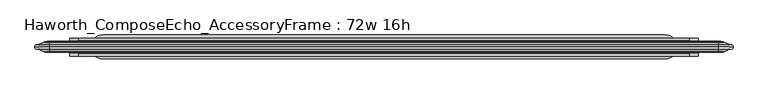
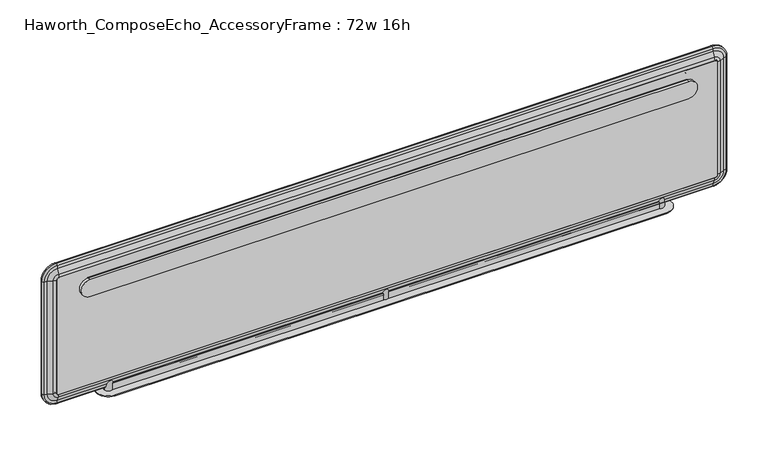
"""IFC4 building model written with IfcOpenShell, lengths in millimetres: furniture geometry, Haworth_ComposeEcho_AccessoryFrame : 72w 16h."""

from ifc_helpers import new_model, si_unit, point, frame, frame_2d, origin, place, context, project, spatial, polyline, circle_curve, ellipse_curve, trimmed, segment, composite_curve, outline, extrude, source, transform, mapped, element, save
from ifc_brep_helpers import plane_surface, cylinder_surface, revolved_surface, advanced_brep


def haworth_composeecho_accessoryframe_72w_16h_d8a9d56e(model_context):
    return source(origin(), model_context, "Body", "SolidModel", [
        extrude(outline(composite_curve([segment(trimmed(circle_curve(frame_2d((1432.9130983, -873.8759879)), 6.3337219), [point((1439.2468202, -873.8759879))], [point((1432.9130983, -880.2097098))], False, "CARTESIAN"), True, "CONTINUOUS"), segment(polyline([(1432.9130983, -880.2097098), (1115.0680007, -880.2097098)]), True, "CONTINUOUS"), segment(trimmed(circle_curve(frame_2d((1115.0680007, -873.8597098)), 6.35), [point((1115.0680007, -880.2097098))], [point((1108.7180007, -873.8597098))], False, "CARTESIAN"), True, "CONTINUOUS"), segment(polyline([(1108.7180007, -873.8597098), (1108.7180007, 878.7402902)]), True, "CONTINUOUS"), segment(trimmed(circle_curve(frame_2d((1115.0680007, 878.7402902)), 6.35), [point((1108.7180007, 878.7402902))], [point((1115.0680007, 885.0902902))], False, "CARTESIAN"), True, "CONTINUOUS"), segment(polyline([(1115.0680007, 885.0902902), (1432.9130983, 885.0902902)]), True, "CONTINUOUS"), segment(trimmed(circle_curve(frame_2d((1432.9130983, 878.7565682)), 6.3337219), [point((1432.9130983, 885.0902902))], [point((1439.2468202, 878.7565682))], False, "CARTESIAN"), True, "CONTINUOUS"), segment(polyline([(1439.2468202, 878.7565682), (1439.2468202, -873.8759879)]), True, "CONTINUOUS")], self_intersect=False)), frame((0.0, -14.1233272, 0.0), z_axis=(0.0, 1.0, 0.0), x_axis=(0.0, 0.0, 1.0)), (0.0, 0.0, 1.0), 28.3652874),
        advanced_brep(
        [(913.9741083, -5.6620988, 1432.9130983), (916.495037, 0.0, 1432.9130983), (878.7563745, 0.0, 1470.6517609), (878.7563745, -5.6620988, 1468.1308321), (906.5453032, -6.4813873, 1432.9130983), (878.7563745, -6.4813873, 1460.7020271), (913.9741083, -5.6620988, 1115.0680007), (916.495037, 0.0, 1115.0680007), (906.5453032, -6.4813873, 1115.0680007), (878.7400964, -5.6620988, 1079.8339888), (878.7400964, 0.0, 1077.31306), (878.7400964, -6.4813873, 1087.2627938), (-873.8597098, -5.6620988, 1079.8339888), (-873.8597098, 0.0, 1077.31306), (-873.8597098, -6.4813873, 1087.2627938), (-909.0937217, -5.6620988, 1115.0680007), (-911.6146505, 0.0, 1115.0680007), (-901.6649167, -6.4813873, 1115.0680007), (-909.0937217, -5.6620988, 1432.9130983), (-911.6146505, 0.0, 1432.9130983), (-901.6649167, -6.4813873, 1432.9130983), (-873.8759879, -5.6620988, 1468.1308321), (-873.8759879, 0.0, 1470.6517609), (-873.8759879, -6.4813873, 1460.7020271), (-880.2097098, 0.0, 1115.0680007), (-873.8597098, 0.0, 1108.7180007), (878.7400964, 0.0, 1108.7180007), (885.0900964, 0.0, 1115.0680007), (885.0900964, 0.0, 1432.9130983), (878.7563745, 0.0, 1439.2468202), (-873.8759879, 0.0, 1439.2468202), (-880.2097098, 0.0, 1432.9130983), (885.0900964, -14.1233272, 1432.9130983), (878.7563745, -14.1233272, 1439.2468202), (893.1685761, -12.0676743, 1432.9130983), (878.7563745, -12.0676743, 1447.3253), (885.0900964, -14.1233272, 1115.0680007), (893.1685761, -12.0676743, 1115.0680007), (878.7400964, -14.1233272, 1108.7180007), (878.7400964, -12.0676743, 1100.6395209), (-873.8597098, -14.1233272, 1108.7180007), (-873.8597098, -12.0676743, 1100.6395209), (-880.2097098, -14.1233272, 1115.0680007), (-888.2881896, -12.0676743, 1115.0680007), (-880.2097098, -14.1233272, 1432.9130983), (-888.2881896, -12.0676743, 1432.9130983), (-873.8759879, -14.1233272, 1439.2468202), (-873.8759879, -12.0676743, 1447.3253)],
        [
            (0, 1, circle_curve(frame((912.5467041, -1.6343332, 1432.9130983), z_axis=(0.0, 0.0, 1.0), x_axis=(-1.0, 0.0, 0.0)), 4.2732164)),
            (1, 2, circle_curve(frame((878.7563745, 0.0, 1432.9130983), z_axis=(0.0, -1.0, 0.0), x_axis=(0.0, 0.0, 1.0)), 37.7386626)),
            (2, 3, circle_curve(frame((878.7563745, -1.6343332, 1466.7034279), z_axis=(1.0, 0.0, 0.0), x_axis=(0.0, 0.0, -1.0)), 4.2732164)),
            (3, 0, circle_curve(frame((878.7563745, -5.6620988, 1432.9130983), z_axis=(0.0, 1.0, 0.0), x_axis=(0.0, 0.0, 1.0)), 35.2177338)),
            (4, 0),
            (3, 5),
            (5, 4, circle_curve(frame((878.7563745, -6.4813873, 1432.9130983), z_axis=(0.0, 1.0, 0.0), x_axis=(0.0, 0.0, 1.0)), 27.7889288)),
            (0, 6),
            (6, 7, circle_curve(frame((912.5467041, -1.6343332, 1115.0680007), z_axis=(0.0, 0.0, 1.0), x_axis=(-1.0, 0.0, 0.0)), 4.2732164)),
            (7, 1),
            (4, 8),
            (8, 6),
            (9, 10, circle_curve(frame((878.7400964, -1.6343332, 1081.261393), z_axis=(1.0, 0.0, 0.0), x_axis=(0.0, 0.0, 1.0)), 4.2732164)),
            (10, 7, circle_curve(frame((878.7400964, 0.0, 1115.0680007), z_axis=(0.0, -1.0, 0.0), x_axis=(1.0, 0.0, 0.0)), 37.7549407)),
            (6, 9, circle_curve(frame((878.7400964, -5.6620988, 1115.0680007), z_axis=(0.0, 1.0, 0.0), x_axis=(1.0, 0.0, 0.0)), 35.2340119)),
            (11, 9),
            (8, 11, circle_curve(frame((878.7400964, -6.4813873, 1115.0680007), z_axis=(0.0, 1.0, 0.0), x_axis=(1.0, 0.0, 0.0)), 27.8052069)),
            (9, 12),
            (12, 13, circle_curve(frame((-873.8597098, -1.6343332, 1081.261393), z_axis=(1.0, 0.0, 0.0), x_axis=(0.0, 0.0, 1.0)), 4.2732164)),
            (13, 10),
            (11, 14),
            (14, 12),
            (15, 16, circle_curve(frame((-907.6663175, -1.6343332, 1115.0680007), z_axis=(0.0, 0.0, -1.0), x_axis=(1.0, 0.0, 0.0)), 4.2732164)),
            (16, 13, circle_curve(frame((-873.8597098, 0.0, 1115.0680007), z_axis=(0.0, -1.0, 0.0), x_axis=(0.0, 0.0, -1.0)), 37.7549407)),
            (12, 15, circle_curve(frame((-873.8597098, -5.6620988, 1115.0680007), z_axis=(0.0, 1.0, 0.0), x_axis=(0.0, 0.0, -1.0)), 35.2340119)),
            (17, 15),
            (14, 17, circle_curve(frame((-873.8597098, -6.4813873, 1115.0680007), z_axis=(0.0, 1.0, 0.0), x_axis=(0.0, 0.0, -1.0)), 27.8052069)),
            (15, 18),
            (18, 19, circle_curve(frame((-907.6663175, -1.6343332, 1432.9130983), z_axis=(0.0, 0.0, -1.0), x_axis=(1.0, 0.0, 0.0)), 4.2732164)),
            (19, 16),
            (17, 20),
            (20, 18),
            (21, 22, circle_curve(frame((-873.8759879, -1.6343332, 1466.7034279), z_axis=(-1.0, 0.0, 0.0), x_axis=(0.0, 0.0, -1.0)), 4.2732164)),
            (22, 19, circle_curve(frame((-873.8759879, 0.0, 1432.9130983), z_axis=(0.0, -1.0, 0.0), x_axis=(-1.0, 0.0, 0.0)), 37.7386626)),
            (18, 21, circle_curve(frame((-873.8759879, -5.6620988, 1432.9130983), z_axis=(0.0, 1.0, 0.0), x_axis=(-1.0, 0.0, 0.0)), 35.2177338)),
            (23, 21),
            (20, 23, circle_curve(frame((-873.8759879, -6.4813873, 1432.9130983), z_axis=(0.0, 1.0, 0.0), x_axis=(-1.0, 0.0, 0.0)), 27.7889288)),
            (21, 3),
            (2, 22),
            (24, 25, circle_curve(frame((-873.8597098, 0.0, 1115.0680007), z_axis=(0.0, -1.0, 0.0), x_axis=(0.0, 0.0, -1.0)), 6.35)),
            (25, 26),
            (26, 27, circle_curve(frame((878.7400964, 0.0, 1115.0680007), z_axis=(0.0, -1.0, 0.0), x_axis=(1.0, 0.0, 0.0)), 6.35)),
            (27, 28),
            (28, 29, circle_curve(frame((878.7563745, 0.0, 1432.9130983), z_axis=(0.0, -1.0, 0.0), x_axis=(0.0, 0.0, 1.0)), 6.3337219)),
            (29, 30),
            (30, 31, circle_curve(frame((-873.8759879, 0.0, 1432.9130983), z_axis=(0.0, -1.0, 0.0), x_axis=(-1.0, 0.0, 0.0)), 6.3337219)),
            (31, 24),
            (23, 5),
            (28, 32),
            (32, 33, circle_curve(frame((878.7563745, -14.1233272, 1432.9130983), z_axis=(0.0, -1.0, 0.0), x_axis=(0.0, 0.0, 1.0)), 6.3337219)),
            (33, 29),
            (32, 34, circle_curve(frame((883.8042192, 7.831597, 1432.9130983), z_axis=(0.0, 0.0, 1.0), x_axis=(-1.0, 0.0, 0.0)), 21.9925482)),
            (34, 35, circle_curve(frame((878.7563745, -12.0676743, 1432.9130983), z_axis=(0.0, -1.0, 0.0), x_axis=(0.0, 0.0, 1.0)), 14.4122017)),
            (35, 33, circle_curve(frame((878.7563745, 7.831597, 1437.960943), z_axis=(1.0, 0.0, 0.0), x_axis=(0.0, 0.0, -1.0)), 21.9925482)),
            (34, 4, circle_curve(frame((962.9438047, -160.3401291, 1432.9130983), z_axis=(0.0, 0.0, -1.0), x_axis=(-1.0, 0.0, 0.0)), 163.8697757)),
            (5, 35, circle_curve(frame((878.7563745, -160.3401291, 1517.1005285), z_axis=(-1.0, 0.0, 0.0), x_axis=(0.0, 0.0, -1.0)), 163.8697757)),
            (27, 36),
            (36, 32),
            (36, 37, circle_curve(frame((883.8042192, 7.831597, 1115.0680007), z_axis=(0.0, 0.0, 1.0), x_axis=(-1.0, 0.0, 0.0)), 21.9925482)),
            (37, 34),
            (37, 8, circle_curve(frame((962.9438047, -160.3401291, 1115.0680007), z_axis=(0.0, 0.0, -1.0), x_axis=(-1.0, 0.0, 0.0)), 163.8697757)),
            (26, 38),
            (38, 36, circle_curve(frame((878.7400964, -14.1233272, 1115.0680007), z_axis=(0.0, -1.0, 0.0), x_axis=(1.0, 0.0, 0.0)), 6.35)),
            (38, 39, circle_curve(frame((878.7400964, 7.831597, 1110.0038779), z_axis=(1.0, 0.0, 0.0), x_axis=(0.0, 0.0, 1.0)), 21.9925482)),
            (39, 37, circle_curve(frame((878.7400964, -12.0676743, 1115.0680007), z_axis=(0.0, -1.0, 0.0), x_axis=(1.0, 0.0, 0.0)), 14.4284798)),
            (39, 11, circle_curve(frame((878.7400964, -160.3401291, 1030.8642924), z_axis=(-1.0, 0.0, 0.0), x_axis=(0.0, 0.0, 1.0)), 163.8697757)),
            (25, 40),
            (40, 38),
            (40, 41, circle_curve(frame((-873.8597098, 7.831597, 1110.0038779), z_axis=(1.0, 0.0, 0.0), x_axis=(0.0, 0.0, 1.0)), 21.9925482)),
            (41, 39),
            (41, 14, circle_curve(frame((-873.8597098, -160.3401291, 1030.8642924), z_axis=(-1.0, 0.0, 0.0), x_axis=(0.0, 0.0, 1.0)), 163.8697757)),
            (24, 42),
            (42, 40, circle_curve(frame((-873.8597098, -14.1233272, 1115.0680007), z_axis=(0.0, -1.0, 0.0), x_axis=(0.0, 0.0, -1.0)), 6.35)),
            (42, 43, circle_curve(frame((-878.9238326, 7.831597, 1115.0680007), z_axis=(0.0, 0.0, -1.0), x_axis=(1.0, 0.0, 0.0)), 21.9925482)),
            (43, 41, circle_curve(frame((-873.8597098, -12.0676743, 1115.0680007), z_axis=(0.0, -1.0, 0.0), x_axis=(0.0, 0.0, -1.0)), 14.4284798)),
            (43, 17, circle_curve(frame((-958.0634181, -160.3401291, 1115.0680007), z_axis=(0.0, 0.0, 1.0), x_axis=(1.0, 0.0, 0.0)), 163.8697757)),
            (31, 44),
            (44, 42),
            (44, 45, circle_curve(frame((-878.9238326, 7.831597, 1432.9130983), z_axis=(0.0, 0.0, -1.0), x_axis=(1.0, 0.0, 0.0)), 21.9925482)),
            (45, 43),
            (45, 20, circle_curve(frame((-958.0634181, -160.3401291, 1432.9130983), z_axis=(0.0, 0.0, 1.0), x_axis=(1.0, 0.0, 0.0)), 163.8697757)),
            (30, 46),
            (46, 44, circle_curve(frame((-873.8759879, -14.1233272, 1432.9130983), z_axis=(0.0, -1.0, 0.0), x_axis=(-1.0, 0.0, 0.0)), 6.3337219)),
            (46, 47, circle_curve(frame((-873.8759879, 7.831597, 1437.960943), z_axis=(-1.0, 0.0, 0.0), x_axis=(0.0, 0.0, -1.0)), 21.9925482)),
            (47, 45, circle_curve(frame((-873.8759879, -12.0676743, 1432.9130983), z_axis=(0.0, -1.0, 0.0), x_axis=(-1.0, 0.0, 0.0)), 14.4122017)),
            (47, 23, circle_curve(frame((-873.8759879, -160.3401291, 1517.1005285), z_axis=(1.0, 0.0, 0.0), x_axis=(0.0, 0.0, -1.0)), 163.8697757)),
            (33, 46),
            (35, 47),
        ],
        [
            revolved_surface(trimmed(ellipse_curve(frame((878.7563745, -1.6343332, 1466.7034279), z_axis=(1.0, 0.0, 0.0), x_axis=(0.0, 0.0, -1.0)), 4.2732164, 4.2732164), [point((878.7563745, 0.0, 1470.6517609))], [point((878.7563745, -5.6620988, 1468.1308321))], True, "CARTESIAN"), (878.7563745, 0.0, 1432.9130983), (0.0, -1.0, 0.0)),
            revolved_surface(polyline([(878.7563745, -5.6620988, 1468.1308321), (878.7563745, -6.4813873, 1460.7020271)]), (878.7563745, 0.0, 1432.9130983), (0.0, -1.0, 0.0)),
            cylinder_surface(frame((912.5467041, -1.6343332, 1432.9130983), z_axis=(0.0, 0.0, 1.0), x_axis=(-1.0, 0.0, 0.0)), 4.2732164),
            plane_surface(frame((913.9741083, -5.6620988, 1432.9130983), z_axis=(0.10962074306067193, -0.9939734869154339, 0.0), x_axis=(0.0, 0.0, -1.0))),
            revolved_surface(trimmed(ellipse_curve(frame((912.5467041, -1.6343332, 1115.0680007), z_axis=(0.0, 0.0, -1.0), x_axis=(-1.0, 0.0, 0.0)), 4.2732164, 4.2732164), [point((916.495037, 0.0, 1115.0680007))], [point((913.9741083, -5.6620988, 1115.0680007))], True, "CARTESIAN"), (878.7400964, 0.0, 1115.0680007), (0.0, -1.0, 0.0)),
            revolved_surface(polyline([(913.9741083, -5.6620988, 1115.0680007), (906.5453032, -6.4813873, 1115.0680007)]), (878.7400964, 0.0, 1115.0680007), (0.0, -1.0, 0.0)),
            cylinder_surface(frame((878.7400964, -1.6343332, 1081.261393), z_axis=(1.0, 0.0, 0.0), x_axis=(0.0, 0.0, 1.0)), 4.2732164),
            plane_surface(frame((878.7400964, -5.6620988, 1079.8339888), z_axis=(0.0, -0.9939734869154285, -0.109620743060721), x_axis=(-1.0, 0.0, 0.0))),
            revolved_surface(trimmed(ellipse_curve(frame((-873.8597098, -1.6343332, 1081.261393), z_axis=(-1.0, 0.0, 0.0), x_axis=(0.0, 0.0, 1.0)), 4.2732164, 4.2732164), [point((-873.8597098, 0.0, 1077.31306))], [point((-873.8597098, -5.6620988, 1079.8339888))], True, "CARTESIAN"), (-873.8597098, 0.0, 1115.0680007), (0.0, -1.0, 0.0)),
            revolved_surface(polyline([(-873.8597098, -5.6620988, 1079.8339888), (-873.8597098, -6.4813873, 1087.2627938)]), (-873.8597098, 0.0, 1115.0680007), (0.0, -1.0, 0.0)),
            cylinder_surface(frame((-907.6663175, -1.6343332, 1115.0680007), z_axis=(0.0, 0.0, -1.0), x_axis=(1.0, 0.0, 0.0)), 4.2732164),
            plane_surface(frame((-909.0937217, -5.6620988, 1115.0680007), z_axis=(-0.10962074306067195, -0.993973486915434, 0.0), x_axis=(0.0, 0.0, 1.0))),
            revolved_surface(trimmed(ellipse_curve(frame((-907.6663175, -1.6343332, 1432.9130983), z_axis=(0.0, 0.0, 1.0), x_axis=(1.0, 0.0, 0.0)), 4.2732164, 4.2732164), [point((-911.6146505, 0.0, 1432.9130983))], [point((-909.0937217, -5.6620988, 1432.9130983))], True, "CARTESIAN"), (-873.8759879, 0.0, 1432.9130983), (0.0, -1.0, 0.0)),
            revolved_surface(polyline([(-909.0937217, -5.6620988, 1432.9130983), (-901.6649167, -6.4813873, 1432.9130983)]), (-873.8759879, 0.0, 1432.9130983), (0.0, -1.0, 0.0)),
            cylinder_surface(frame((-873.8759879, -1.6343332, 1466.7034279), z_axis=(-1.0, 0.0, 0.0), x_axis=(0.0, 0.0, -1.0)), 4.2732164),
            plane_surface(frame((-873.8759879, 0.0, 1439.2468202), z_axis=(0.0, 1.0, 0.0), x_axis=(1.0, 0.0, 0.0))),
            plane_surface(frame((-873.8759879, -5.6620988, 1468.1308321), z_axis=(0.0, -0.9939734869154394, 0.10962074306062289), x_axis=(1.0, 0.0, 0.0))),
            revolved_surface(polyline([(878.7563745, -14.1233272, 1439.2468202), (878.7563745, 0.0, 1439.2468202)]), (878.7563745, 0.0, 1432.9130983), (0.0, -1.0, 0.0)),
            revolved_surface(trimmed(ellipse_curve(frame((878.7563745, 7.831597, 1437.960943), z_axis=(1.0, 0.0, 0.0), x_axis=(0.0, 0.0, -1.0)), 21.9925482, 21.9925482), [point((878.7563745, -12.0676743, 1447.3253))], [point((878.7563745, -14.1233272, 1439.2468202))], True, "CARTESIAN"), (878.7563745, 0.0, 1432.9130983), (0.0, -1.0, 0.0)),
            revolved_surface(trimmed(ellipse_curve(frame((878.7563745, -160.3401291, 1517.1005285), z_axis=(-1.0, 0.0, 0.0), x_axis=(0.0, 0.0, -1.0)), 163.8697757, 163.8697757), [point((878.7563745, -6.4813873, 1460.7020271))], [point((878.7563745, -12.0676743, 1447.3253))], True, "CARTESIAN"), (878.7563745, 0.0, 1432.9130983), (0.0, -1.0, 0.0)),
            plane_surface(frame((885.0900964, -14.1233272, 1432.9130983), z_axis=(-1.0, 0.0, 0.0), x_axis=(0.0, 0.0, -1.0))),
            cylinder_surface(frame((883.8042192, 7.831597, 1432.9130983), z_axis=(0.0, 0.0, 1.0), x_axis=(-1.0, 0.0, 0.0)), 21.9925482),
            revolved_surface(polyline([(799.074029, -160.3401291, 1115.0680007), (799.074029, -160.3401291, 1432.9130983)]), (962.9438047, -160.3401291, 1432.9130983), (0.0, 0.0, -1.0)),
            revolved_surface(polyline([(885.0900964, -14.1233272, 1115.0680007), (885.0900964, 0.0, 1115.0680007)]), (878.7400964, 0.0, 1115.0680007), (0.0, -1.0, 0.0)),
            revolved_surface(trimmed(ellipse_curve(frame((883.8042192, 7.831597, 1115.0680007), z_axis=(0.0, 0.0, -1.0), x_axis=(-1.0, 0.0, 0.0)), 21.9925482, 21.9925482), [point((893.1685761, -12.0676743, 1115.0680007))], [point((885.0900964, -14.1233272, 1115.0680007))], True, "CARTESIAN"), (878.7400964, 0.0, 1115.0680007), (0.0, -1.0, 0.0)),
            revolved_surface(trimmed(ellipse_curve(frame((962.9438047, -160.3401291, 1115.0680007), z_axis=(0.0, 0.0, 1.0), x_axis=(-1.0, 0.0, 0.0)), 163.8697757, 163.8697757), [point((906.5453032, -6.4813873, 1115.0680007))], [point((893.1685761, -12.0676743, 1115.0680007))], True, "CARTESIAN"), (878.7400964, 0.0, 1115.0680007), (0.0, -1.0, 0.0)),
            plane_surface(frame((878.7400964, -14.1233272, 1108.7180007), z_axis=(0.0, 0.0, 1.0), x_axis=(-1.0, 0.0, 0.0))),
            cylinder_surface(frame((878.7400964, 7.831597, 1110.0038779), z_axis=(1.0, 0.0, 0.0), x_axis=(0.0, 0.0, 1.0)), 21.9925482),
            revolved_surface(polyline([(-873.8597097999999, -160.3401291, 1194.7340681), (878.7400964, -160.3401291, 1194.7340681)]), (878.7400964, -160.3401291, 1030.8642924), (-1.0, 0.0, 0.0)),
            revolved_surface(polyline([(-873.8597098, -14.1233272, 1108.7180007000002), (-873.8597098, 0.0, 1108.7180007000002)]), (-873.8597098, 0.0, 1115.0680007), (0.0, -1.0, 0.0)),
            revolved_surface(trimmed(ellipse_curve(frame((-873.8597098, 7.831597, 1110.0038779), z_axis=(-1.0, 0.0, 0.0), x_axis=(0.0, 0.0, 1.0)), 21.9925482, 21.9925482), [point((-873.8597098, -12.0676743, 1100.6395209))], [point((-873.8597098, -14.1233272, 1108.7180007))], True, "CARTESIAN"), (-873.8597098, 0.0, 1115.0680007), (0.0, -1.0, 0.0)),
            revolved_surface(trimmed(ellipse_curve(frame((-873.8597098, -160.3401291, 1030.8642924), z_axis=(1.0, 0.0, 0.0), x_axis=(0.0, 0.0, 1.0)), 163.8697757, 163.8697757), [point((-873.8597098, -6.4813873, 1087.2627938))], [point((-873.8597098, -12.0676743, 1100.6395209))], True, "CARTESIAN"), (-873.8597098, 0.0, 1115.0680007), (0.0, -1.0, 0.0)),
            plane_surface(frame((-880.2097098, -14.1233272, 1115.0680007), z_axis=(1.0, 0.0, 0.0), x_axis=(0.0, 0.0, 1.0))),
            cylinder_surface(frame((-878.9238326, 7.831597, 1115.0680007), z_axis=(0.0, 0.0, -1.0), x_axis=(1.0, 0.0, 0.0)), 21.9925482),
            revolved_surface(polyline([(-794.1936424, -160.3401291, 1432.9130983), (-794.1936424, -160.3401291, 1115.0680007)]), (-958.0634181, -160.3401291, 1115.0680007), (0.0, 0.0, 1.0)),
            revolved_surface(polyline([(-880.2097098, -14.1233272, 1432.9130983), (-880.2097098, 0.0, 1432.9130983)]), (-873.8759879, 0.0, 1432.9130983), (0.0, -1.0, 0.0)),
            revolved_surface(trimmed(ellipse_curve(frame((-878.9238326, 7.831597, 1432.9130983), z_axis=(0.0, 0.0, 1.0), x_axis=(1.0, 0.0, 0.0)), 21.9925482, 21.9925482), [point((-888.2881896, -12.0676743, 1432.9130983))], [point((-880.2097098, -14.1233272, 1432.9130983))], True, "CARTESIAN"), (-873.8759879, 0.0, 1432.9130983), (0.0, -1.0, 0.0)),
            revolved_surface(trimmed(ellipse_curve(frame((-958.0634181, -160.3401291, 1432.9130983), z_axis=(0.0, 0.0, -1.0), x_axis=(1.0, 0.0, 0.0)), 163.8697757, 163.8697757), [point((-901.6649167, -6.4813873, 1432.9130983))], [point((-888.2881896, -12.0676743, 1432.9130983))], True, "CARTESIAN"), (-873.8759879, 0.0, 1432.9130983), (0.0, -1.0, 0.0)),
            plane_surface(frame((-873.8759879, -14.1233272, 1439.2468202), z_axis=(0.0, 0.0, -1.0), x_axis=(1.0, 0.0, 0.0))),
            cylinder_surface(frame((-873.8759879, 7.831597, 1437.960943), z_axis=(-1.0, 0.0, 0.0), x_axis=(0.0, 0.0, -1.0)), 21.9925482),
            revolved_surface(polyline([(878.7563745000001, -160.3401291, 1353.2307528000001), (-873.8759879, -160.3401291, 1353.2307528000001)]), (-873.8759879, -160.3401291, 1517.1005285), (1.0, 0.0, 0.0)),
        ],
        [
            (0, [[1, 2, 3, 4]]),
            (1, [[5, -4, 6, 7]]),
            (2, [[8, 9, 10, -1]]),
            (3, [[11, 12, -8, -5]]),
            (4, [[13, 14, -9, 15]]),
            (5, [[16, -15, -12, 17]]),
            (6, [[18, 19, 20, -13]]),
            (7, [[21, 22, -18, -16]]),
            (8, [[23, 24, -19, 25]]),
            (9, [[26, -25, -22, 27]]),
            (10, [[28, 29, 30, -23]]),
            (11, [[31, 32, -28, -26]]),
            (12, [[33, 34, -29, 35]]),
            (13, [[36, -35, -32, 37]]),
            (14, [[38, -3, 39, -33]]),
            (15, [[-2, -10, -14, -20, -24, -30, -34, -39], [40, 41, 42, 43, 44, 45, 46, 47]]),
            (16, [[48, -6, -38, -36]]),
            (17, [[49, 50, 51, -44]]),
            (18, [[52, 53, 54, -50]]),
            (19, [[55, -7, 56, -53]]),
            (20, [[-43, 57, 58, -49]]),
            (21, [[-58, 59, 60, -52]]),
            (22, [[-60, 61, -11, -55]]),
            (23, [[62, 63, -57, -42]]),
            (24, [[64, 65, -59, -63]]),
            (25, [[66, -17, -61, -65]]),
            (26, [[-41, 67, 68, -62]]),
            (27, [[-68, 69, 70, -64]]),
            (28, [[-70, 71, -21, -66]]),
            (29, [[72, 73, -67, -40]]),
            (30, [[74, 75, -69, -73]]),
            (31, [[76, -27, -71, -75]]),
            (32, [[-47, 77, 78, -72]]),
            (33, [[-78, 79, 80, -74]]),
            (34, [[-80, 81, -31, -76]]),
            (35, [[82, 83, -77, -46]]),
            (36, [[84, 85, -79, -83]]),
            (37, [[86, -37, -81, -85]]),
            (38, [[-45, -51, 87, -82]]),
            (39, [[-87, -54, 88, -84]]),
            (40, [[-88, -56, -48, -86]]),
        ],
    ),
        advanced_brep(
        [(916.495037, 0.0, 1432.9130983), (913.9741083, 5.6620988, 1432.9130983), (878.7563745, 5.6620988, 1468.1308321), (878.7563745, 0.0, 1470.6517609), (906.5453032, 6.4813873, 1432.9130983), (878.7563745, 6.4813873, 1460.7020271), (916.495037, 0.0, 1115.0680007), (913.9741083, 5.6620988, 1115.0680007), (906.5453032, 6.4813873, 1115.0680007), (878.7400964, 0.0, 1077.31306), (878.7400964, 5.6620988, 1079.8339888), (878.7400964, 6.4813873, 1087.2627938), (-873.8597098, 0.0, 1077.31306), (-873.8597098, 5.6620988, 1079.8339888), (-873.8597098, 6.4813873, 1087.2627938), (-911.6146505, 0.0, 1115.0680007), (-909.0937217, 5.6620988, 1115.0680007), (-901.6649167, 6.4813873, 1115.0680007), (-911.6146505, 0.0, 1432.9130983), (-909.0937217, 5.6620988, 1432.9130983), (-901.6649167, 6.4813873, 1432.9130983), (-873.8759879, 0.0, 1470.6517609), (-873.8759879, 5.6620988, 1468.1308321), (-873.8759879, 6.4813873, 1460.7020271), (878.7563745, 0.0, 1439.2468202), (885.0900964, 0.0, 1432.9130983), (885.0900964, 0.0, 1115.0680007), (878.7400964, 0.0, 1108.7180007), (-873.8597098, 0.0, 1108.7180007), (-880.2097098, 0.0, 1115.0680007), (-880.2097098, 0.0, 1432.9130983), (-873.8759879, 0.0, 1439.2468202), (885.0900964, 14.1233272, 1432.9130983), (878.7563745, 14.1233272, 1439.2468202), (893.1685761, 12.0676743, 1432.9130983), (878.7563745, 12.0676743, 1447.3253), (885.0900964, 14.1233272, 1115.0680007), (893.1685761, 12.0676743, 1115.0680007), (878.7400964, 14.1233272, 1108.7180007), (878.7400964, 12.0676743, 1100.6395209), (-873.8597098, 14.1233272, 1108.7180007), (-873.8597098, 12.0676743, 1100.6395209), (-880.2097098, 14.1233272, 1115.0680007), (-888.2881896, 12.0676743, 1115.0680007), (-880.2097098, 14.1233272, 1432.9130983), (-888.2881896, 12.0676743, 1432.9130983), (-873.8759879, 14.1233272, 1439.2468202), (-873.8759879, 12.0676743, 1447.3253)],
        [
            (0, 1, circle_curve(frame((912.5467041, 1.6343332, 1432.9130983), z_axis=(0.0, 0.0, 1.0), x_axis=(1.0, 0.0, 0.0)), 4.2732164)),
            (1, 2, circle_curve(frame((878.7563745, 5.6620988, 1432.9130983), z_axis=(0.0, -1.0, 0.0), x_axis=(0.0, 0.0, 1.0)), 35.2177338)),
            (2, 3, circle_curve(frame((878.7563745, 1.6343332, 1466.7034279), z_axis=(1.0, 0.0, 0.0), x_axis=(0.0, 0.0, 1.0)), 4.2732164)),
            (3, 0, circle_curve(frame((878.7563745, 0.0, 1432.9130983), z_axis=(0.0, 1.0, 0.0), x_axis=(0.0, 0.0, 1.0)), 37.7386626)),
            (1, 4),
            (4, 5, circle_curve(frame((878.7563745, 6.4813873, 1432.9130983), z_axis=(0.0, -1.0, 0.0), x_axis=(0.0, 0.0, 1.0)), 27.7889288)),
            (5, 2),
            (0, 6),
            (6, 7, circle_curve(frame((912.5467041, 1.6343332, 1115.0680007), z_axis=(0.0, 0.0, 1.0), x_axis=(1.0, 0.0, 0.0)), 4.2732164)),
            (7, 1),
            (7, 8),
            (8, 4),
            (9, 10, circle_curve(frame((878.7400964, 1.6343332, 1081.261393), z_axis=(1.0, 0.0, 0.0), x_axis=(0.0, 0.0, -1.0)), 4.2732164)),
            (10, 7, circle_curve(frame((878.7400964, 5.6620988, 1115.0680007), z_axis=(0.0, -1.0, 0.0), x_axis=(1.0, 0.0, 0.0)), 35.2340119)),
            (6, 9, circle_curve(frame((878.7400964, 0.0, 1115.0680007), z_axis=(0.0, 1.0, 0.0), x_axis=(1.0, 0.0, 0.0)), 37.7549407)),
            (10, 11),
            (11, 8, circle_curve(frame((878.7400964, 6.4813873, 1115.0680007), z_axis=(0.0, -1.0, 0.0), x_axis=(1.0, 0.0, 0.0)), 27.8052069)),
            (9, 12),
            (12, 13, circle_curve(frame((-873.8597098, 1.6343332, 1081.261393), z_axis=(1.0, 0.0, 0.0), x_axis=(0.0, 0.0, -1.0)), 4.2732164)),
            (13, 10),
            (13, 14),
            (14, 11),
            (15, 16, circle_curve(frame((-907.6663175, 1.6343332, 1115.0680007), z_axis=(0.0, 0.0, -1.0), x_axis=(-1.0, 0.0, 0.0)), 4.2732164)),
            (16, 13, circle_curve(frame((-873.8597098, 5.6620988, 1115.0680007), z_axis=(0.0, -1.0, 0.0), x_axis=(0.0, 0.0, -1.0)), 35.2340119)),
            (12, 15, circle_curve(frame((-873.8597098, 0.0, 1115.0680007), z_axis=(0.0, 1.0, 0.0), x_axis=(0.0, 0.0, -1.0)), 37.7549407)),
            (16, 17),
            (17, 14, circle_curve(frame((-873.8597098, 6.4813873, 1115.0680007), z_axis=(0.0, -1.0, 0.0), x_axis=(0.0, 0.0, -1.0)), 27.8052069)),
            (15, 18),
            (18, 19, circle_curve(frame((-907.6663175, 1.6343332, 1432.9130983), z_axis=(0.0, 0.0, -1.0), x_axis=(-1.0, 0.0, 0.0)), 4.2732164)),
            (19, 16),
            (19, 20),
            (20, 17),
            (21, 22, circle_curve(frame((-873.8759879, 1.6343332, 1466.7034279), z_axis=(-1.0, 0.0, 0.0), x_axis=(0.0, 0.0, 1.0)), 4.2732164)),
            (22, 19, circle_curve(frame((-873.8759879, 5.6620988, 1432.9130983), z_axis=(0.0, -1.0, 0.0), x_axis=(-1.0, 0.0, 0.0)), 35.2177338)),
            (18, 21, circle_curve(frame((-873.8759879, 0.0, 1432.9130983), z_axis=(0.0, 1.0, 0.0), x_axis=(-1.0, 0.0, 0.0)), 37.7386626)),
            (22, 23),
            (23, 20, circle_curve(frame((-873.8759879, 6.4813873, 1432.9130983), z_axis=(0.0, -1.0, 0.0), x_axis=(-1.0, 0.0, 0.0)), 27.7889288)),
            (21, 3),
            (2, 22),
            (24, 25, circle_curve(frame((878.7563745, 0.0, 1432.9130983), z_axis=(0.0, 1.0, 0.0), x_axis=(0.0, 0.0, 1.0)), 6.3337219)),
            (25, 26),
            (26, 27, circle_curve(frame((878.7400964, 0.0, 1115.0680007), z_axis=(0.0, 1.0, 0.0), x_axis=(1.0, 0.0, 0.0)), 6.35)),
            (27, 28),
            (28, 29, circle_curve(frame((-873.8597098, 0.0, 1115.0680007), z_axis=(0.0, 1.0, 0.0), x_axis=(0.0, 0.0, -1.0)), 6.35)),
            (29, 30),
            (30, 31, circle_curve(frame((-873.8759879, 0.0, 1432.9130983), z_axis=(0.0, 1.0, 0.0), x_axis=(-1.0, 0.0, 0.0)), 6.3337219)),
            (31, 24),
            (5, 23),
            (32, 25),
            (24, 33),
            (33, 32, circle_curve(frame((878.7563745, 14.1233272, 1432.9130983), z_axis=(0.0, 1.0, 0.0), x_axis=(0.0, 0.0, 1.0)), 6.3337219)),
            (34, 32, circle_curve(frame((883.8042192, -7.831597, 1432.9130983), z_axis=(0.0, 0.0, 1.0), x_axis=(1.0, 0.0, 0.0)), 21.9925482)),
            (33, 35, circle_curve(frame((878.7563745, -7.831597, 1437.960943), z_axis=(1.0, 0.0, 0.0), x_axis=(0.0, 0.0, 1.0)), 21.9925482)),
            (35, 34, circle_curve(frame((878.7563745, 12.0676743, 1432.9130983), z_axis=(0.0, 1.0, 0.0), x_axis=(0.0, 0.0, 1.0)), 14.4122017)),
            (4, 34, circle_curve(frame((962.9438047, 160.3401291, 1432.9130983), z_axis=(0.0, 0.0, -1.0), x_axis=(1.0, 0.0, 0.0)), 163.8697757)),
            (35, 5, circle_curve(frame((878.7563745, 160.3401291, 1517.1005285), z_axis=(-1.0, 0.0, 0.0), x_axis=(0.0, 0.0, 1.0)), 163.8697757)),
            (32, 36),
            (36, 26),
            (34, 37),
            (37, 36, circle_curve(frame((883.8042192, -7.831597, 1115.0680007), z_axis=(0.0, 0.0, 1.0), x_axis=(1.0, 0.0, 0.0)), 21.9925482)),
            (8, 37, circle_curve(frame((962.9438047, 160.3401291, 1115.0680007), z_axis=(0.0, 0.0, -1.0), x_axis=(1.0, 0.0, 0.0)), 163.8697757)),
            (38, 27),
            (36, 38, circle_curve(frame((878.7400964, 14.1233272, 1115.0680007), z_axis=(0.0, 1.0, 0.0), x_axis=(1.0, 0.0, 0.0)), 6.35)),
            (39, 38, circle_curve(frame((878.7400964, -7.831597, 1110.0038779), z_axis=(1.0, 0.0, 0.0), x_axis=(0.0, 0.0, -1.0)), 21.9925482)),
            (37, 39, circle_curve(frame((878.7400964, 12.0676743, 1115.0680007), z_axis=(0.0, 1.0, 0.0), x_axis=(1.0, 0.0, 0.0)), 14.4284798)),
            (11, 39, circle_curve(frame((878.7400964, 160.3401291, 1030.8642924), z_axis=(-1.0, 0.0, 0.0), x_axis=(0.0, 0.0, -1.0)), 163.8697757)),
            (38, 40),
            (40, 28),
            (39, 41),
            (41, 40, circle_curve(frame((-873.8597098, -7.831597, 1110.0038779), z_axis=(1.0, 0.0, 0.0), x_axis=(0.0, 0.0, -1.0)), 21.9925482)),
            (14, 41, circle_curve(frame((-873.8597098, 160.3401291, 1030.8642924), z_axis=(-1.0, 0.0, 0.0), x_axis=(0.0, 0.0, -1.0)), 163.8697757)),
            (42, 29),
            (40, 42, circle_curve(frame((-873.8597098, 14.1233272, 1115.0680007), z_axis=(0.0, 1.0, 0.0), x_axis=(0.0, 0.0, -1.0)), 6.35)),
            (43, 42, circle_curve(frame((-878.9238326, -7.831597, 1115.0680007), z_axis=(0.0, 0.0, -1.0), x_axis=(-1.0, 0.0, 0.0)), 21.9925482)),
            (41, 43, circle_curve(frame((-873.8597098, 12.0676743, 1115.0680007), z_axis=(0.0, 1.0, 0.0), x_axis=(0.0, 0.0, -1.0)), 14.4284798)),
            (17, 43, circle_curve(frame((-958.0634181, 160.3401291, 1115.0680007), z_axis=(0.0, 0.0, 1.0), x_axis=(-1.0, 0.0, 0.0)), 163.8697757)),
            (42, 44),
            (44, 30),
            (43, 45),
            (45, 44, circle_curve(frame((-878.9238326, -7.831597, 1432.9130983), z_axis=(0.0, 0.0, -1.0), x_axis=(-1.0, 0.0, 0.0)), 21.9925482)),
            (20, 45, circle_curve(frame((-958.0634181, 160.3401291, 1432.9130983), z_axis=(0.0, 0.0, 1.0), x_axis=(-1.0, 0.0, 0.0)), 163.8697757)),
            (46, 31),
            (44, 46, circle_curve(frame((-873.8759879, 14.1233272, 1432.9130983), z_axis=(0.0, 1.0, 0.0), x_axis=(-1.0, 0.0, 0.0)), 6.3337219)),
            (47, 46, circle_curve(frame((-873.8759879, -7.831597, 1437.960943), z_axis=(-1.0, 0.0, 0.0), x_axis=(0.0, 0.0, 1.0)), 21.9925482)),
            (45, 47, circle_curve(frame((-873.8759879, 12.0676743, 1432.9130983), z_axis=(0.0, 1.0, 0.0), x_axis=(-1.0, 0.0, 0.0)), 14.4122017)),
            (23, 47, circle_curve(frame((-873.8759879, 160.3401291, 1517.1005285), z_axis=(1.0, 0.0, 0.0), x_axis=(0.0, 0.0, 1.0)), 163.8697757)),
            (46, 33),
            (47, 35),
        ],
        [
            revolved_surface(trimmed(ellipse_curve(frame((878.7563745, 1.6343332, 1466.7034279), z_axis=(1.0, 0.0, 0.0), x_axis=(0.0, 0.0, 1.0)), 4.2732164, 4.2732164), [point((878.7563745, 5.6620988, 1468.1308321))], [point((878.7563745, 0.0, 1470.6517609))], True, "CARTESIAN"), (878.7563745, 0.0, 1432.9130983), (0.0, -1.0, 0.0)),
            revolved_surface(polyline([(878.7563745, 6.4813873, 1460.7020271), (878.7563745, 5.6620988, 1468.1308321)]), (878.7563745, 0.0, 1432.9130983), (0.0, -1.0, 0.0)),
            cylinder_surface(frame((912.5467041, 1.6343332, 1432.9130983), z_axis=(0.0, 0.0, 1.0), x_axis=(1.0, 0.0, 0.0)), 4.2732164),
            plane_surface(frame((906.5453032, 6.4813873, 1432.9130983), z_axis=(0.10962074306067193, 0.9939734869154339, 0.0), x_axis=(0.0, 0.0, -1.0))),
            revolved_surface(trimmed(ellipse_curve(frame((912.5467041, 1.6343332, 1115.0680007), z_axis=(0.0, 0.0, -1.0), x_axis=(1.0, 0.0, 0.0)), 4.2732164, 4.2732164), [point((913.9741083, 5.6620988, 1115.0680007))], [point((916.495037, 0.0, 1115.0680007))], True, "CARTESIAN"), (878.7400964, 0.0, 1115.0680007), (0.0, -1.0, 0.0)),
            revolved_surface(polyline([(906.5453032, 6.4813873, 1115.0680007), (913.9741083, 5.6620988, 1115.0680007)]), (878.7400964, 0.0, 1115.0680007), (0.0, -1.0, 0.0)),
            cylinder_surface(frame((878.7400964, 1.6343332, 1081.261393), z_axis=(1.0, 0.0, 0.0), x_axis=(0.0, 0.0, -1.0)), 4.2732164),
            plane_surface(frame((878.7400964, 6.4813873, 1087.2627938), z_axis=(0.0, 0.9939734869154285, -0.109620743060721), x_axis=(-1.0, 0.0, 0.0))),
            revolved_surface(trimmed(ellipse_curve(frame((-873.8597098, 1.6343332, 1081.261393), z_axis=(-1.0, 0.0, 0.0), x_axis=(0.0, 0.0, -1.0)), 4.2732164, 4.2732164), [point((-873.8597098, 5.6620988, 1079.8339888))], [point((-873.8597098, 0.0, 1077.31306))], True, "CARTESIAN"), (-873.8597098, 0.0, 1115.0680007), (0.0, -1.0, 0.0)),
            revolved_surface(polyline([(-873.8597098, 6.4813873, 1087.2627938), (-873.8597098, 5.6620988, 1079.8339888)]), (-873.8597098, 0.0, 1115.0680007), (0.0, -1.0, 0.0)),
            cylinder_surface(frame((-907.6663175, 1.6343332, 1115.0680007), z_axis=(0.0, 0.0, -1.0), x_axis=(-1.0, 0.0, 0.0)), 4.2732164),
            plane_surface(frame((-901.6649167, 6.4813873, 1115.0680007), z_axis=(-0.10962074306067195, 0.993973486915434, 0.0), x_axis=(0.0, 0.0, 1.0))),
            revolved_surface(trimmed(ellipse_curve(frame((-907.6663175, 1.6343332, 1432.9130983), z_axis=(0.0, 0.0, 1.0), x_axis=(-1.0, 0.0, 0.0)), 4.2732164, 4.2732164), [point((-909.0937217, 5.6620988, 1432.9130983))], [point((-911.6146505, 0.0, 1432.9130983))], True, "CARTESIAN"), (-873.8759879, 0.0, 1432.9130983), (0.0, -1.0, 0.0)),
            revolved_surface(polyline([(-901.6649167, 6.4813873, 1432.9130983), (-909.0937217, 5.6620988, 1432.9130983)]), (-873.8759879, 0.0, 1432.9130983), (0.0, -1.0, 0.0)),
            cylinder_surface(frame((-873.8759879, 1.6343332, 1466.7034279), z_axis=(-1.0, 0.0, 0.0), x_axis=(0.0, 0.0, 1.0)), 4.2732164),
            plane_surface(frame((-873.8759879, 0.0, 1470.6517609), z_axis=(0.0, -1.0, 0.0), x_axis=(1.0, 0.0, 0.0))),
            plane_surface(frame((-873.8759879, 6.4813873, 1460.7020271), z_axis=(0.0, 0.9939734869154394, 0.10962074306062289), x_axis=(1.0, 0.0, 0.0))),
            revolved_surface(polyline([(878.7563745, 0.0, 1439.2468202), (878.7563745, 14.1233272, 1439.2468202)]), (878.7563745, 0.0, 1432.9130983), (0.0, -1.0, 0.0)),
            revolved_surface(trimmed(ellipse_curve(frame((878.7563745, -7.831597, 1437.960943), z_axis=(1.0, 0.0, 0.0), x_axis=(0.0, 0.0, 1.0)), 21.9925482, 21.9925482), [point((878.7563745, 14.1233272, 1439.2468202))], [point((878.7563745, 12.0676743, 1447.3253))], True, "CARTESIAN"), (878.7563745, 0.0, 1432.9130983), (0.0, -1.0, 0.0)),
            revolved_surface(trimmed(ellipse_curve(frame((878.7563745, 160.3401291, 1517.1005285), z_axis=(-1.0, 0.0, 0.0), x_axis=(0.0, 0.0, 1.0)), 163.8697757, 163.8697757), [point((878.7563745, 12.0676743, 1447.3253))], [point((878.7563745, 6.4813873, 1460.7020271))], True, "CARTESIAN"), (878.7563745, 0.0, 1432.9130983), (0.0, -1.0, 0.0)),
            plane_surface(frame((885.0900964, 0.0, 1432.9130983), z_axis=(-1.0, 0.0, 0.0), x_axis=(0.0, 0.0, -1.0))),
            cylinder_surface(frame((883.8042192, -7.831597, 1432.9130983), z_axis=(0.0, 0.0, 1.0), x_axis=(1.0, 0.0, 0.0)), 21.9925482),
            revolved_surface(polyline([(1126.8135803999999, 160.3401291, 1115.0680007), (1126.8135803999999, 160.3401291, 1432.9130983)]), (962.9438047, 160.3401291, 1432.9130983), (0.0, 0.0, -1.0)),
            revolved_surface(polyline([(885.0900964, 0.0, 1115.0680007), (885.0900964, 14.1233272, 1115.0680007)]), (878.7400964, 0.0, 1115.0680007), (0.0, -1.0, 0.0)),
            revolved_surface(trimmed(ellipse_curve(frame((883.8042192, -7.831597, 1115.0680007), z_axis=(0.0, 0.0, -1.0), x_axis=(1.0, 0.0, 0.0)), 21.9925482, 21.9925482), [point((885.0900964, 14.1233272, 1115.0680007))], [point((893.1685761, 12.0676743, 1115.0680007))], True, "CARTESIAN"), (878.7400964, 0.0, 1115.0680007), (0.0, -1.0, 0.0)),
            revolved_surface(trimmed(ellipse_curve(frame((962.9438047, 160.3401291, 1115.0680007), z_axis=(0.0, 0.0, 1.0), x_axis=(1.0, 0.0, 0.0)), 163.8697757, 163.8697757), [point((893.1685761, 12.0676743, 1115.0680007))], [point((906.5453032, 6.4813873, 1115.0680007))], True, "CARTESIAN"), (878.7400964, 0.0, 1115.0680007), (0.0, -1.0, 0.0)),
            plane_surface(frame((878.7400964, 0.0, 1108.7180007), z_axis=(0.0, 0.0, 1.0), x_axis=(-1.0, 0.0, 0.0))),
            cylinder_surface(frame((878.7400964, -7.831597, 1110.0038779), z_axis=(1.0, 0.0, 0.0), x_axis=(0.0, 0.0, -1.0)), 21.9925482),
            revolved_surface(polyline([(-873.8597097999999, 160.3401291, 866.9945167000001), (878.7400964, 160.3401291, 866.9945167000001)]), (878.7400964, 160.3401291, 1030.8642924), (-1.0, 0.0, 0.0)),
            revolved_surface(polyline([(-873.8597098, 0.0, 1108.7180007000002), (-873.8597098, 14.1233272, 1108.7180007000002)]), (-873.8597098, 0.0, 1115.0680007), (0.0, -1.0, 0.0)),
            revolved_surface(trimmed(ellipse_curve(frame((-873.8597098, -7.831597, 1110.0038779), z_axis=(-1.0, 0.0, 0.0), x_axis=(0.0, 0.0, -1.0)), 21.9925482, 21.9925482), [point((-873.8597098, 14.1233272, 1108.7180007))], [point((-873.8597098, 12.0676743, 1100.6395209))], True, "CARTESIAN"), (-873.8597098, 0.0, 1115.0680007), (0.0, -1.0, 0.0)),
            revolved_surface(trimmed(ellipse_curve(frame((-873.8597098, 160.3401291, 1030.8642924), z_axis=(1.0, 0.0, 0.0), x_axis=(0.0, 0.0, -1.0)), 163.8697757, 163.8697757), [point((-873.8597098, 12.0676743, 1100.6395209))], [point((-873.8597098, 6.4813873, 1087.2627938))], True, "CARTESIAN"), (-873.8597098, 0.0, 1115.0680007), (0.0, -1.0, 0.0)),
            plane_surface(frame((-880.2097098, 0.0, 1115.0680007), z_axis=(1.0, 0.0, 0.0), x_axis=(0.0, 0.0, 1.0))),
            cylinder_surface(frame((-878.9238326, -7.831597, 1115.0680007), z_axis=(0.0, 0.0, -1.0), x_axis=(-1.0, 0.0, 0.0)), 21.9925482),
            revolved_surface(polyline([(-1121.9331938, 160.3401291, 1432.9130983), (-1121.9331938, 160.3401291, 1115.0680007)]), (-958.0634181, 160.3401291, 1115.0680007), (0.0, 0.0, 1.0)),
            revolved_surface(polyline([(-880.2097098, 0.0, 1432.9130983), (-880.2097098, 14.1233272, 1432.9130983)]), (-873.8759879, 0.0, 1432.9130983), (0.0, -1.0, 0.0)),
            revolved_surface(trimmed(ellipse_curve(frame((-878.9238326, -7.831597, 1432.9130983), z_axis=(0.0, 0.0, 1.0), x_axis=(-1.0, 0.0, 0.0)), 21.9925482, 21.9925482), [point((-880.2097098, 14.1233272, 1432.9130983))], [point((-888.2881896, 12.0676743, 1432.9130983))], True, "CARTESIAN"), (-873.8759879, 0.0, 1432.9130983), (0.0, -1.0, 0.0)),
            revolved_surface(trimmed(ellipse_curve(frame((-958.0634181, 160.3401291, 1432.9130983), z_axis=(0.0, 0.0, -1.0), x_axis=(-1.0, 0.0, 0.0)), 163.8697757, 163.8697757), [point((-888.2881896, 12.0676743, 1432.9130983))], [point((-901.6649167, 6.4813873, 1432.9130983))], True, "CARTESIAN"), (-873.8759879, 0.0, 1432.9130983), (0.0, -1.0, 0.0)),
            plane_surface(frame((-873.8759879, 0.0, 1439.2468202), z_axis=(0.0, 0.0, -1.0), x_axis=(1.0, 0.0, 0.0))),
            cylinder_surface(frame((-873.8759879, -7.831597, 1437.960943), z_axis=(-1.0, 0.0, 0.0), x_axis=(0.0, 0.0, 1.0)), 21.9925482),
            revolved_surface(polyline([(878.7563745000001, 160.3401291, 1680.9703042), (-873.8759879, 160.3401291, 1680.9703042)]), (-873.8759879, 160.3401291, 1517.1005285), (1.0, 0.0, 0.0)),
        ],
        [
            (0, [[1, 2, 3, 4]]),
            (1, [[5, 6, 7, -2]]),
            (2, [[8, 9, 10, -1]]),
            (3, [[-10, 11, 12, -5]]),
            (4, [[13, 14, -9, 15]]),
            (5, [[16, 17, -11, -14]]),
            (6, [[18, 19, 20, -13]]),
            (7, [[-20, 21, 22, -16]]),
            (8, [[23, 24, -19, 25]]),
            (9, [[26, 27, -21, -24]]),
            (10, [[28, 29, 30, -23]]),
            (11, [[-30, 31, 32, -26]]),
            (12, [[33, 34, -29, 35]]),
            (13, [[36, 37, -31, -34]]),
            (14, [[38, -3, 39, -33]]),
            (15, [[-25, -18, -15, -8, -4, -38, -35, -28], [40, 41, 42, 43, 44, 45, 46, 47]]),
            (16, [[-39, -7, 48, -36]]),
            (17, [[49, -40, 50, 51]]),
            (18, [[52, -51, 53, 54]]),
            (19, [[55, -54, 56, -6]]),
            (20, [[57, 58, -41, -49]]),
            (21, [[59, 60, -57, -52]]),
            (22, [[-12, 61, -59, -55]]),
            (23, [[62, -42, -58, 63]]),
            (24, [[64, -63, -60, 65]]),
            (25, [[66, -65, -61, -17]]),
            (26, [[67, 68, -43, -62]]),
            (27, [[69, 70, -67, -64]]),
            (28, [[-22, 71, -69, -66]]),
            (29, [[72, -44, -68, 73]]),
            (30, [[74, -73, -70, 75]]),
            (31, [[76, -75, -71, -27]]),
            (32, [[77, 78, -45, -72]]),
            (33, [[79, 80, -77, -74]]),
            (34, [[-32, 81, -79, -76]]),
            (35, [[82, -46, -78, 83]]),
            (36, [[84, -83, -80, 85]]),
            (37, [[86, -85, -81, -37]]),
            (38, [[87, -50, -47, -82]]),
            (39, [[88, -53, -87, -84]]),
            (40, [[-48, -56, -88, -86]]),
        ],
    ),
        extrude(outline(composite_curve([segment(trimmed(circle_curve(frame_2d((2.4402902, 0.0)), 11.1130959), [point((-8.6728057, 0.0))], [point((13.5533861, 0.0))], False, "CARTESIAN"), True, "CONTINUOUS"), segment(trimmed(circle_curve(frame_2d((2.4402902, 0.0)), 11.1130959), [point((13.5533861, 0.0))], [point((-8.6728057, 0.0))], False, "CARTESIAN"), True, "CONTINUOUS")], self_intersect=False)), frame((0.0, 0.0, 1335.081865), z_axis=(0.0, 0.0, 1.0), x_axis=(1.0, 0.0, 0.0)), (0.0, 0.0, 1.0), 76.2),
        extrude(outline(composite_curve([segment(trimmed(circle_curve(frame_2d((2.4402902, 0.0)), 11.1130959), [point((-8.6728057, 0.0))], [point((13.5533861, 0.0))], False, "CARTESIAN"), True, "CONTINUOUS"), segment(trimmed(circle_curve(frame_2d((2.4402902, 0.0)), 11.1130959), [point((13.5533861, 0.0))], [point((-8.6728057, 0.0))], False, "CARTESIAN"), True, "CONTINUOUS")], self_intersect=False)), frame((0.0, 0.0, 1066.8), z_axis=(0.0, 0.0, 1.0), x_axis=(1.0, 0.0, 0.0)), (0.0, 0.0, 1.0), 268.281865),
        extrude(outline(composite_curve([segment(trimmed(circle_curve(frame_2d((739.0402902, 0.0)), 11.1130959), [point((727.9271943, 0.0))], [point((750.1533861, 0.0))], False, "CARTESIAN"), True, "CONTINUOUS"), segment(trimmed(circle_curve(frame_2d((739.0402902, 0.0)), 11.1130959), [point((750.1533861, 0.0))], [point((727.9271943, 0.0))], False, "CARTESIAN"), True, "CONTINUOUS")], self_intersect=False)), frame((0.0, 0.0, 1335.081865), z_axis=(0.0, 0.0, 1.0), x_axis=(1.0, 0.0, 0.0)), (0.0, 0.0, 1.0), 76.2),
        extrude(outline(composite_curve([segment(trimmed(circle_curve(frame_2d((739.0402902, 0.0)), 11.1130959), [point((727.9271943, 0.0))], [point((750.1533861, 0.0))], False, "CARTESIAN"), True, "CONTINUOUS"), segment(trimmed(circle_curve(frame_2d((739.0402902, 0.0)), 11.1130959), [point((750.1533861, 0.0))], [point((727.9271943, 0.0))], False, "CARTESIAN"), True, "CONTINUOUS")], self_intersect=False)), frame((0.0, 0.0, 1066.8), z_axis=(0.0, 0.0, 1.0), x_axis=(1.0, 0.0, 0.0)), (0.0, 0.0, 1.0), 268.281865),
        extrude(outline(composite_curve([segment(trimmed(circle_curve(frame_2d((-734.1597098, 0.0)), 11.1130959), [point((-745.2728057, 0.0))], [point((-723.0466139, 0.0))], False, "CARTESIAN"), True, "CONTINUOUS"), segment(trimmed(circle_curve(frame_2d((-734.1597098, 0.0)), 11.1130959), [point((-723.0466139, 0.0))], [point((-745.2728057, 0.0))], False, "CARTESIAN"), True, "CONTINUOUS")], self_intersect=False)), frame((0.0, 0.0, 1335.081865), z_axis=(0.0, 0.0, 1.0), x_axis=(1.0, 0.0, 0.0)), (0.0, 0.0, 1.0), 76.2),
        extrude(outline(composite_curve([segment(trimmed(circle_curve(frame_2d((-734.1597098, 0.0)), 11.1130959), [point((-745.2728057, 0.0))], [point((-723.0466139, 0.0))], False, "CARTESIAN"), True, "CONTINUOUS"), segment(trimmed(circle_curve(frame_2d((-734.1597098, 0.0)), 11.1130959), [point((-723.0466139, 0.0))], [point((-745.2728057, 0.0))], False, "CARTESIAN"), True, "CONTINUOUS")], self_intersect=False)), frame((0.0, 0.0, 1066.8), z_axis=(0.0, 0.0, 1.0), x_axis=(1.0, 0.0, 0.0)), (0.0, 0.0, 1.0), 268.281865),
        extrude(outline(polyline([(801.6766902, 16.7063446), (801.6766902, -16.7061508), (-796.7961098, -16.7061508), (-796.7961098, 16.7063446), (801.6766902, 16.7063446)])), frame((0.0, 0.0, 1365.6741697), z_axis=(0.0, 0.0, 1.0), x_axis=(1.0, 0.0, 0.0)), (0.0, 0.0, 1.0), 47.6326303),
        extrude(outline(composite_curve([segment(trimmed(circle_curve(frame_2d((1389.4904848, 801.6766902)), 23.8163152), [point((1365.6741697, 801.6766902))], [point((1413.3068, 801.6766902))], False, "CARTESIAN"), True, "CONTINUOUS"), segment(polyline([(1413.3068, 801.6766902), (1413.3068, -796.7961098)]), True, "CONTINUOUS"), segment(trimmed(circle_curve(frame_2d((1389.4904848, -796.7961098)), 23.8163152), [point((1413.3068, -796.7961098))], [point((1365.6741697, -796.7961098))], False, "CARTESIAN"), True, "CONTINUOUS"), segment(polyline([(1365.6741697, -796.7961098), (1365.6741697, 801.6766902)]), True, "CONTINUOUS")], self_intersect=False)), frame((0.0, -24.9027435, 0.0), z_axis=(0.0, 1.0, 0.0), x_axis=(0.0, 0.0, 1.0)), (0.0, 0.0, 1.0), 8.1965927),
        extrude(outline(composite_curve([segment(polyline([(1413.3068, 801.6766902), (1413.3068, -796.7961098)]), True, "CONTINUOUS"), segment(trimmed(circle_curve(frame_2d((1389.4904848, -796.7961098)), 23.8163152), [point((1413.3068, -796.7961098))], [point((1365.6741697, -796.7961098))], False, "CARTESIAN"), True, "CONTINUOUS"), segment(polyline([(1365.6741697, -796.7961098), (1365.6741697, 801.6766902)]), True, "CONTINUOUS"), segment(trimmed(circle_curve(frame_2d((1389.4904848, 801.6766902)), 23.8163152), [point((1365.6741697, 801.6766902))], [point((1413.3068, 801.6766902))], False, "CARTESIAN"), True, "CONTINUOUS")], self_intersect=False)), frame((0.0, 16.7063446, 0.0), z_axis=(0.0, 1.0, 0.0), x_axis=(0.0, 0.0, 1.0)), (0.0, 0.0, 1.0), 6.3122938),
        extrude(outline(polyline([(739.0402902, -9.5195424), (-734.1597098, -9.5195424), (-734.1597098, 9.5195424), (739.0402902, 9.5195424), (739.0402902, -9.5195424)])), frame((0.0, 0.0, 1068.8319015), z_axis=(0.0, 0.0, 1.0), x_axis=(1.0, 0.0, 0.0)), (0.0, 0.0, 1.0), 19.0552873),
        extrude(outline(composite_curve([segment(polyline([(-734.1597098, 31.3889207), (739.0402902, 31.3889207)]), True, "CONTINUOUS"), segment(trimmed(circle_curve(frame_2d((739.0402902, -0.0027988)), 31.3917195), [point((739.0402902, 31.3889207))], [point((739.0402902, -31.3945183))], False, "CARTESIAN"), True, "CONTINUOUS"), segment(polyline([(739.0402902, -31.3945183), (-734.1597098, -31.3945183)]), True, "CONTINUOUS"), segment(trimmed(circle_curve(frame_2d((-734.1597098, -0.0027988)), 31.3917195), [point((-734.1597098, -31.3945183))], [point((-734.1597098, 31.3889207))], False, "CARTESIAN"), True, "CONTINUOUS")], self_intersect=False)), frame((0.0, 0.0, 1066.8), z_axis=(0.0, 0.0, 1.0), x_axis=(1.0, 0.0, 0.0)), (0.0, 0.0, 1.0), 2.0345959),
    ])


if __name__ == "__main__":
    model = new_model("IFC4")
    model_context = context("Model", 3, world=origin())
    ifc_project = project(units=[si_unit("LENGTHUNIT", "METRE", prefix="MILLI")], contexts=[model_context])
    site = spatial("IfcSite", under=ifc_project)
    building = spatial("IfcBuilding", under=site)
    placement = place(None, origin())
    haworth_composeecho_accessoryframe_72w_16h_shape = haworth_composeecho_accessoryframe_72w_16h_d8a9d56e(model_context)
    element("IfcFurniture", 1, ObjectType="Haworth_ComposeEcho_AccessoryFrame : 72w 16h", at=placement, inside=building, context=model_context, shape_type="MappedRepresentation", body=[
        mapped(haworth_composeecho_accessoryframe_72w_16h_shape, transform((0.0, 0.0, 0.0), x_axis=(1.0, 0.0, 0.0), y_axis=(0.0, 1.0, 0.0), z_axis=(0.0, 0.0, 1.0))),
    ])
    save(model, "model.ifc")
